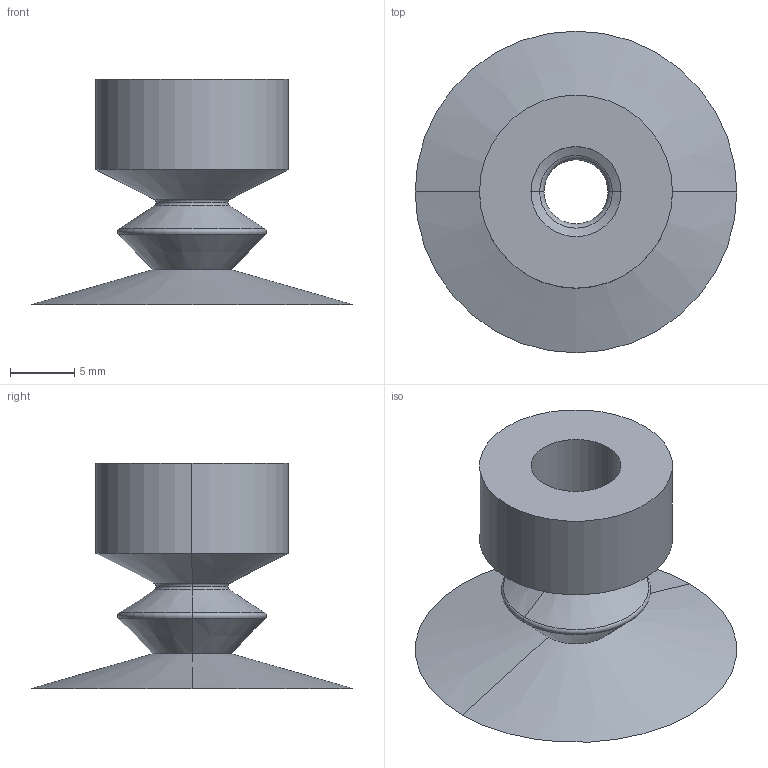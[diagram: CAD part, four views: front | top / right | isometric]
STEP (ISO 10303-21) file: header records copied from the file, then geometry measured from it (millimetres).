
FILE_DESCRIPTION (( 'STEP AP214' ), '1' );
FILE_NAME ('VSH2-S25.STEP', '2019-12-02T06:00:13', ( '微软用户' ), ( '微软中国' ), 'SwSTEP 2.0', 'SolidWorks 2016', '' );
FILE_SCHEMA (( 'AUTOMOTIVE_DESIGN' ));
Length unit declared in the file: millimetre
Products named in the file (1): VSH2-S25
Bounding box: 25 x 25 x 17.5 mm (x, y, z)
Volume: 964.1 mm3; surface area: 2510.1 mm2
Topology: 1 solids, 1 shells, 35 faces, 70 edges, 38 vertices
Faces by surface type: cone 16, torus 10, cylinder 6, plane 3
Entity records: 942 total; most frequent: DIRECTION 190, CARTESIAN_POINT 144, ORIENTED_EDGE 140, AXIS2_PLACEMENT_3D 84, EDGE_CURVE 70, CIRCLE 48, VERTEX_POINT 38, EDGE_LOOP 38
